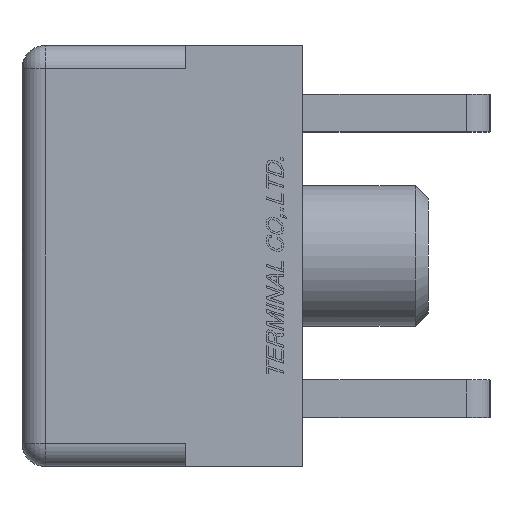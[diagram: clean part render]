
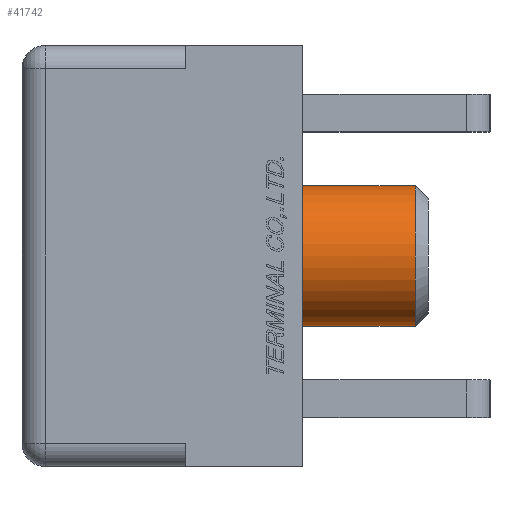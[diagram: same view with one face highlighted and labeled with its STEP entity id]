
A CAD part, left-side view. The second image highlights one B-rep face of the part: STEP entity #41742.
In plain terms, the highlighted cylindrical face has radius 1.5 mm (diameter 3 mm), a full revolution.
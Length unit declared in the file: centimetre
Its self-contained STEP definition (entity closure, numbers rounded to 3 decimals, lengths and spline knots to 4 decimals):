
#12871=VERTEX_POINT('',#52429);
#12872=VERTEX_POINT('',#52431);
#17031=CIRCLE('',#69605,0.15);
#17032=CIRCLE('',#69606,0.15);
#17521=EDGE_CURVE('',#12871,#12871,#17031,.T.);
#17522=EDGE_CURVE('',#12872,#12872,#17032,.T.);
#23833=ORIENTED_EDGE('',*,*,#17522,.F.);
#23834=ORIENTED_EDGE('',*,*,#17521,.F.);
#36354=EDGE_LOOP('',(#23833));
#36355=EDGE_LOOP('',(#23834));
#39049=FACE_BOUND('',#36354,.T.);
#39050=FACE_BOUND('',#36355,.T.);
#41742=ADVANCED_FACE('',(#39049,#39050),#44216,.T.);
#44216=CYLINDRICAL_SURFACE('',#69600,0.15);
#44566=DIRECTION('',(0.,-1.,0.));
#44567=DIRECTION('',(0.15,0.,0.));
#44576=DIRECTION('',(0.,-1.,0.));
#44577=DIRECTION('',(-0.15,0.,0.));
#44578=DIRECTION('',(0.,1.,0.));
#44579=DIRECTION('',(0.15,0.,-0.001));
#52420=CARTESIAN_POINT('',(-0.31,0.3321,0.));
#52428=CARTESIAN_POINT('',(-0.31,-0.2398,0.));
#52429=CARTESIAN_POINT('',(-0.16,-0.2398,0.));
#52430=CARTESIAN_POINT('',(-0.31,0.25,0.));
#52431=CARTESIAN_POINT('',(-0.16,0.25,-0.001));
#69600=AXIS2_PLACEMENT_3D('',#52420,#44566,#44567);
#69605=AXIS2_PLACEMENT_3D('',#52428,#44576,#44577);
#69606=AXIS2_PLACEMENT_3D('',#52430,#44578,#44579);
